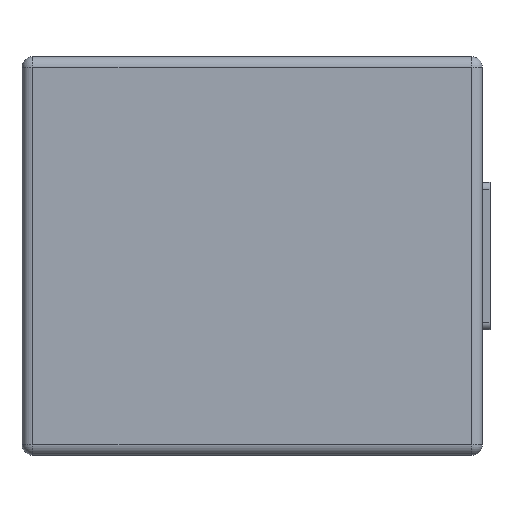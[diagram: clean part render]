
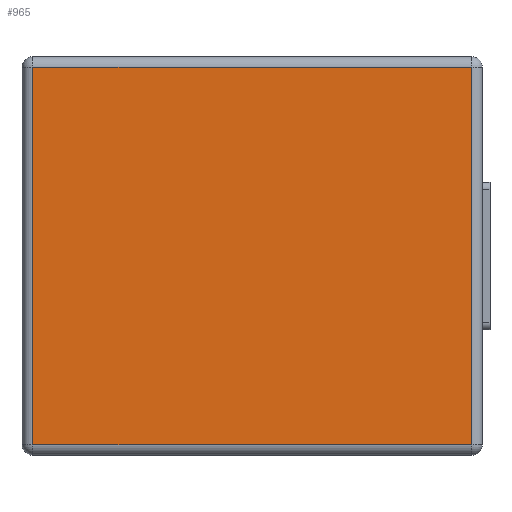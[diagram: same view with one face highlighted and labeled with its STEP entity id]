
A CAD part, left-side view. The second image highlights one B-rep face of the part: STEP entity #965.
In plain terms, the highlighted planar face has unit normal (-1, 0, 0).
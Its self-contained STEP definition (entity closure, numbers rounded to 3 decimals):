
#965 = ADVANCED_FACE( '', ( #2118 ), #2119, .F. );
#2118 = FACE_OUTER_BOUND( '', #3466, .T. );
#2119 = PLANE( '', #3467 );
#3466 = EDGE_LOOP( '', ( #6082, #6083, #6084, #6085 ) );
#3467 = AXIS2_PLACEMENT_3D( '', #6086, #6087, #6088 );
#6082 = ORIENTED_EDGE( '', *, *, #7630, .T. );
#6083 = ORIENTED_EDGE( '', *, *, #7952, .T. );
#6084 = ORIENTED_EDGE( '', *, *, #8060, .T. );
#6085 = ORIENTED_EDGE( '', *, *, #8080, .T. );
#6086 = CARTESIAN_POINT( '', ( -129.7, -1.5, -2.5 ) );
#6087 = DIRECTION( '', ( 1., 0., 0. ) );
#6088 = DIRECTION( '', ( 0., 1., 0. ) );
#7630 = EDGE_CURVE( '', #9152, #9157, #9159, .F. );
#7952 = EDGE_CURVE( '', #9157, #9642, #9644, .F. );
#8060 = EDGE_CURVE( '', #9642, #8993, #9787, .F. );
#8080 = EDGE_CURVE( '', #8993, #9152, #9811, .F. );
#8993 = VERTEX_POINT( '', #11007 );
#9152 = VERTEX_POINT( '', #11226 );
#9157 = VERTEX_POINT( '', #11232 );
#9159 = LINE( '', #11234, #11235 );
#9642 = VERTEX_POINT( '', #11887 );
#9644 = LINE( '', #11889, #11890 );
#9787 = LINE( '', #12241, #12242 );
#9811 = LINE( '', #12272, #12273 );
#11007 = CARTESIAN_POINT( '', ( -129.7, -1.5, 101.5 ) );
#11226 = CARTESIAN_POINT( '', ( -129.7, 119.5, 101.5 ) );
#11232 = CARTESIAN_POINT( '', ( -129.7, 119.5, -2.5 ) );
#11234 = CARTESIAN_POINT( '', ( -129.7, 119.5, -2.5 ) );
#11235 = VECTOR( '', #13384, 1000. );
#11887 = CARTESIAN_POINT( '', ( -129.7, -1.5, -2.5 ) );
#11889 = CARTESIAN_POINT( '', ( -129.7, -1.5, -2.5 ) );
#11890 = VECTOR( '', #13789, 1000. );
#12241 = CARTESIAN_POINT( '', ( -129.7, -1.5, 101.5 ) );
#12242 = VECTOR( '', #13949, 1000. );
#12272 = CARTESIAN_POINT( '', ( -129.7, 119.5, 101.5 ) );
#12273 = VECTOR( '', #13977, 1000. );
#13384 = DIRECTION( '', ( 0., 0., 1. ) );
#13789 = DIRECTION( '', ( 0., 1., 0. ) );
#13949 = DIRECTION( '', ( 0., 0., -1. ) );
#13977 = DIRECTION( '', ( 0., -1., 0. ) );
